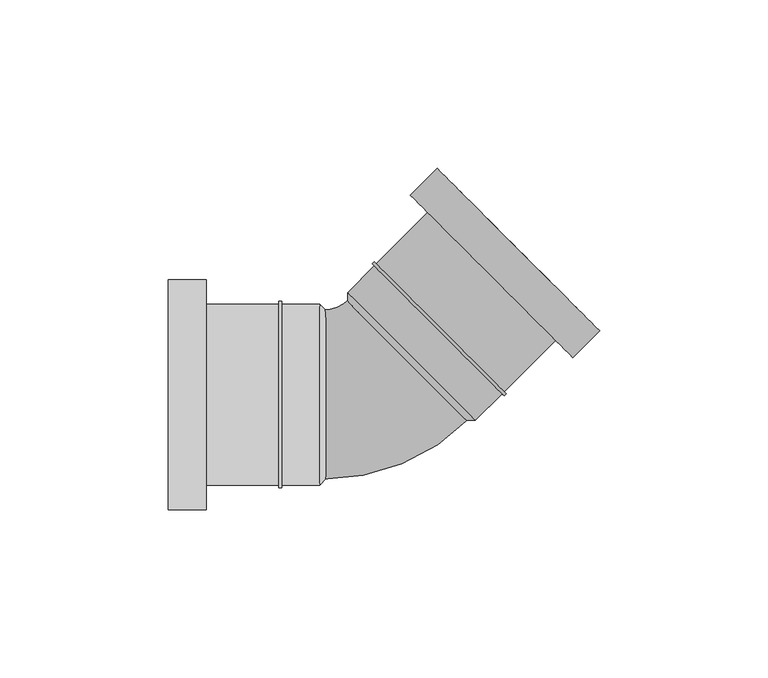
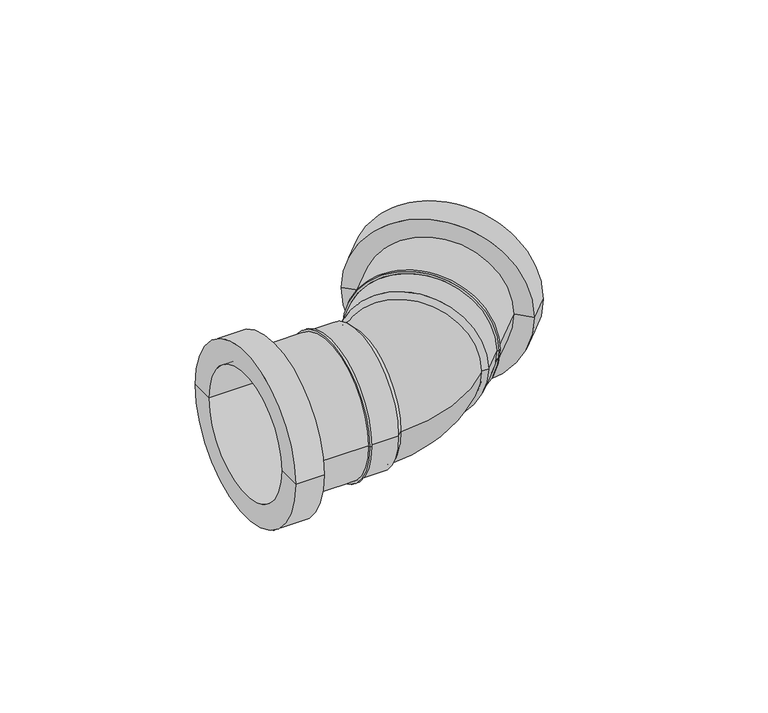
"""IFC4 building model written with IfcOpenShell, lengths in millimetres: pipe fitting geometry, UN_PIF_PP bend S-S_SH_PipeLife : Black, var. DN/OD (max. ø125, nested)."""

import ifcopenshell
import ifcopenshell.guid

model = None  # the IFC model being written
_history = None  # IfcOwnerHistory: only IFC2X3 demands one
_inside = {}  # id of a spatial element -> (the spatial element, [elements in it])
_under = {}  # id of a project, library or spatial element -> (it, [spatial elements below it])
_declared = {}  # id of a project -> (the project, [libraries it declares])
_typed = {}  # id of a type object -> (the type object, [elements of that type])
_made_of = {}  # id of a material, layer set ... -> (it, [elements and type objects made of it])


def new_model(schema):
    """Start an empty IFC model of exactly this schema.

    Asked for "IFC4X3", IfcOpenShell would pick the latest addendum, in which some entities
    have other attributes; the version numbers below select the first issue.
    IFC2X3 requires an IfcOwnerHistory on every rooted entity: one is made here for all.
    """
    global model, _history
    if schema == "IFC4X3":
        model = ifcopenshell.file(schema_version=(4, 3, 0, 0))
    else:
        model = ifcopenshell.file(schema=schema)
    _inside.clear()
    _under.clear()
    _declared.clear()
    _typed.clear()
    _made_of.clear()
    _history = None
    if model.schema == "IFC2X3":
        org = make("IfcOrganization", Name="unknown")
        user = make(
            "IfcPersonAndOrganization",
            ThePerson=make("IfcPerson", FamilyName="unknown"),
            TheOrganization=org,
        )
        app = make(
            "IfcApplication",
            ApplicationDeveloper=org,
            Version="unknown",
            ApplicationFullName="unknown",
            ApplicationIdentifier="unknown",
        )
        _history = make(
            "IfcOwnerHistory",
            OwningUser=user,
            OwningApplication=app,
            ChangeAction="ADDED",
            CreationDate=0,
        )
    return model


def make(cls, **values):
    """One entity of the class cls with the attributes given. An attribute that is None is left unset."""
    return model.create_entity(
        cls, **{name: value for name, value in values.items() if value is not None}
    )


def rooted(cls, **values):
    """An entity with a GlobalId (a new one), such as an element, a storey or a relation."""
    return make(cls, GlobalId=ifcopenshell.guid.new(), OwnerHistory=_history, **values)


def si_unit(unit_type, name, prefix=None):
    """IfcSIUnit, for example si_unit("LENGTHUNIT", "METRE", prefix="MILLI")."""
    return make("IfcSIUnit", UnitType=unit_type, Prefix=prefix, Name=name)


def assignment(units):
    """IfcUnitAssignment: the units of a project."""
    return None if units is None else make("IfcUnitAssignment", Units=units)


def point(xyz):
    """IfcCartesianPoint."""
    return None if xyz is None else make("IfcCartesianPoint", Coordinates=xyz)


def direction(xyz):
    """IfcDirection."""
    return None if xyz is None else make("IfcDirection", DirectionRatios=xyz)


def frame(location, z_axis=None, x_axis=None):
    """IfcAxis2Placement3D, a coordinate frame: its origin and axes. An axis left out is left unset."""
    return make(
        "IfcAxis2Placement3D",
        Location=point(location),
        Axis=direction(z_axis),
        RefDirection=direction(x_axis),
    )


def origin():
    """The frame at (0, 0, 0) with its axes left unset."""
    return frame((0.0, 0.0, 0.0))


def place(relative_to, where):
    """IfcLocalPlacement: puts the frame where relative to a parent placement (None: the world)."""
    return make(
        "IfcLocalPlacement", PlacementRelTo=relative_to, RelativePlacement=where
    )


def context(
    kind, dimensions, precision=None, world=None, true_north=None, identifier=None
):
    """IfcGeometricRepresentationContext, for example the 3D "Model" context."""
    return make(
        "IfcGeometricRepresentationContext",
        ContextIdentifier=identifier,
        ContextType=kind,
        CoordinateSpaceDimension=dimensions,
        Precision=precision,
        WorldCoordinateSystem=world,
        TrueNorth=true_north,
    )


def project(units=None, contexts=None):
    """IfcProject with its units and contexts."""
    return rooted(
        "IfcProject",
        Name="project",
        RepresentationContexts=contexts,
        UnitsInContext=assignment(units),
    )


def spatial(cls, under=None, at=None, **own):
    """A site, building, storey or space (cls), placed at a placement, below another one or the project."""
    s = rooted(cls, ObjectPlacement=at, **own)
    if under is not None:
        _under.setdefault(under.id(), (under, []))[1].append(s)
    return s


def polyline(points):
    """IfcPolyline through the points."""
    return make("IfcPolyline", Points=[point(p) for p in points])


def circle_curve(where, radius):
    """IfcCircle in the frame where."""
    return make("IfcCircle", Position=where, Radius=radius)


def ellipse_curve(where, semi_axis1, semi_axis2):
    """IfcEllipse in the frame where."""
    return make(
        "IfcEllipse", Position=where, SemiAxis1=semi_axis1, SemiAxis2=semi_axis2
    )


def trimmed(basis, trim1, trim2, sense, master):
    """IfcTrimmedCurve: the piece of a basis curve between two trims."""
    return make(
        "IfcTrimmedCurve",
        BasisCurve=basis,
        Trim1=trim1,
        Trim2=trim2,
        SenseAgreement=sense,
        MasterRepresentation=master,
    )


def shape(context_of_items, identifier, shape_type, items):
    """IfcShapeRepresentation: the items that make up one representation, for example the "Body"."""
    return make(
        "IfcShapeRepresentation",
        ContextOfItems=context_of_items,
        RepresentationIdentifier=identifier,
        RepresentationType=shape_type,
        Items=items,
    )


def source(mapping_origin, context_of_items, identifier, shape_type, items):
    """IfcRepresentationMap: a shape defined once, which mapped items show again and again."""
    return make(
        "IfcRepresentationMap",
        MappingOrigin=mapping_origin,
        MappedRepresentation=shape(context_of_items, identifier, shape_type, items),
    )


def transform(
    local_origin,
    x_axis=None,
    y_axis=None,
    z_axis=None,
    scale=None,
    scale2=None,
    scale3=None,
    uniform=True,
):
    """IfcCartesianTransformationOperator3D, or its non-uniform kind. x_axis, y_axis, z_axis: its Axis1, 2, 3."""
    if uniform:
        return make(
            "IfcCartesianTransformationOperator3D",
            Axis1=direction(x_axis),
            Axis2=direction(y_axis),
            LocalOrigin=point(local_origin),
            Scale=scale,
            Axis3=direction(z_axis),
        )
    return make(
        "IfcCartesianTransformationOperator3DnonUniform",
        Axis1=direction(x_axis),
        Axis2=direction(y_axis),
        LocalOrigin=point(local_origin),
        Scale=scale,
        Axis3=direction(z_axis),
        Scale2=scale2,
        Scale3=scale3,
    )


def mapped(mapping_source, mapping_target):
    """IfcMappedItem: shows the shape of a source again, moved by a transform."""
    return make(
        "IfcMappedItem", MappingSource=mapping_source, MappingTarget=mapping_target
    )


def made_of(thing, what):
    """Note that an element or type object is made of a material, layer set ...; save() writes the relation."""
    if what is not None:
        _made_of.setdefault(what.id(), (what, []))[1].append(thing)
    return thing


def element(
    cls,
    number,
    at=None,
    inside=None,
    cuts=None,
    type_object=None,
    material=None,
    context=None,
    identifier="Body",
    shape_type=None,
    held_by="IfcProductDefinitionShape",
    body=None,
    shapes=None,
    **own,
):
    """One element of the class cls, such as IfcWall. Its Tag is "e" and its number.

    at: its placement. inside: the storey or other place that contains it. cuts: it is an
    opening in that element (IfcRelVoidsElement). A single representation is given by context,
    identifier, shape_type and body (its items); several are given by shapes. held_by: the class
    of the entity that holds the representations. save() writes the other relations.
    """
    e = rooted(cls, Tag="e%d" % number, ObjectPlacement=at, **own)
    if body is not None:
        shapes = [shape(context, identifier, shape_type, body)]
    if shapes is not None:
        e.Representation = make(held_by, Representations=shapes)
    if inside is not None:
        _inside.setdefault(inside.id(), (inside, []))[1].append(e)
    if cuts is not None:
        rooted(
            "IfcRelVoidsElement", RelatingBuildingElement=cuts, RelatedOpeningElement=e
        )
    if type_object is not None:
        _typed.setdefault(type_object.id(), (type_object, []))[1].append(e)
    return made_of(e, material)


def aggregate(whole, parts):
    """IfcRelAggregates: a whole, such as a stair, and the parts it consists of."""
    return rooted("IfcRelAggregates", RelatingObject=whole, RelatedObjects=parts)


def save(model, path):
    """Write the relations noted so far, then the file.

    IfcRelAggregates (storeys below a building ...), IfcRelContainedInSpatialStructure (elements
    in a storey), IfcRelDefinesByType, IfcRelAssociatesMaterial and IfcRelDeclares: one each for
    every whole, place, type object, material and project.
    """
    for whole, parts in _under.values():
        aggregate(whole, parts)
    for where, things in _inside.values():
        rooted(
            "IfcRelContainedInSpatialStructure",
            RelatedElements=things,
            RelatingStructure=where,
        )
    for kind, things in _typed.values():
        rooted("IfcRelDefinesByType", RelatedObjects=things, RelatingType=kind)
    for what, things in _made_of.values():
        rooted("IfcRelAssociatesMaterial", RelatedObjects=things, RelatingMaterial=what)
    for by, libraries in _declared.values():
        rooted("IfcRelDeclares", RelatingContext=by, RelatedDefinitions=libraries)
    model.write(path)


def plane_surface(at):
    """IfcPlane: the flat surface through the origin of the frame at, square to its z axis."""
    return make("IfcPlane", Position=at)


def cylinder_surface(at, radius):
    """IfcCylindricalSurface: all points at the distance radius from the z axis of the frame at."""
    return make("IfcCylindricalSurface", Position=at, Radius=radius)


def revolved_surface(curve, axis_point, axis_direction):
    """IfcSurfaceOfRevolution: the curve turned about the line through axis_point along axis_direction."""
    return make(
        "IfcSurfaceOfRevolution",
        SweptCurve=make("IfcArbitraryOpenProfileDef", ProfileType="CURVE", Curve=curve),
        AxisPosition=make("IfcAxis1Placement", Location=point(axis_point), Axis=direction(axis_direction)),
    )


def advanced_brep(points, edges, surfaces, faces):
    """IfcAdvancedBrep: a solid bounded by faces that lie on surfaces and meet in shared edges.

    An edge is (start, end): straight between two places in points (the first is 0);
    or (start, end, curve); or (start, end, curve, False) where it runs against its curve.
    A face is (place in surfaces, loops), or (place, loops, False) where it looks against
    its surface's normal. A loop lists edges by number (the first is 1), with a minus sign
    where the edge is run from its end to its start. The first loop is the outer one.
    """
    corners = [point(p) for p in points]
    vertices = [make("IfcVertexPoint", VertexGeometry=c) for c in corners]
    made = []
    for start, end, *more in edges:
        made.append(
            make(
                "IfcEdgeCurve",
                EdgeStart=vertices[start],
                EdgeEnd=vertices[end],
                EdgeGeometry=more[0] if more else make("IfcPolyline", Points=[corners[start], corners[end]]),
                SameSense=more[1] if len(more) > 1 else True,
            )
        )
    hull = []
    for where, loops, *sense in faces:
        bounds = []
        for j, loop in enumerate(loops):
            ring = [make("IfcOrientedEdge", EdgeElement=made[abs(k) - 1], Orientation=k > 0) for k in loop]
            bounds.append(
                make(
                    "IfcFaceOuterBound" if j == 0 else "IfcFaceBound",
                    Bound=make("IfcEdgeLoop", EdgeList=ring),
                    Orientation=True,
                )
            )
        hull.append(make("IfcAdvancedFace", Bounds=bounds, FaceSurface=surfaces[where], SameSense=sense[0] if sense else True))
    return make("IfcAdvancedBrep", Outer=make("IfcClosedShell", CfsFaces=hull))


def pipe_fitting_aa3b7aee(model_context):
    return source(origin(), model_context, "Body", "AdvancedBrep", [
        advanced_brep(
        [(-14.15, 25.0, 0.0), (-14.15, -25.0, 0.0), (-16.0, -26.85, 0.0), (-16.0, 26.85, 0.0), (-60.9, 34.15, 0.0), (-60.9, -34.15, 0.0), (-60.9, -25.0, 0.0), (-60.9, 25.0, 0.0), (-49.675, 34.15, 0.0), (-49.675, -34.15, 0.0), (-49.675, 26.85, 0.0), (-49.675, -26.85, 0.0), (-28.075, 26.85, 0.0), (-28.075, -26.85, 0.0), (-28.075, 27.7, 0.0), (-28.075, -27.7, 0.0), (-27.225, 27.7, 0.0), (-27.225, -27.7, 0.0), (-27.225, 26.85, 0.0), (-27.225, -26.85, 0.0)],
        [
            (0, 1, circle_curve(frame((-14.15, 0.0, 0.0), z_axis=(-1.0, 0.0, 0.0), x_axis=(0.0, -1.0000000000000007, 0.0)), 25.0)),
            (1, 2),
            (2, 3, circle_curve(frame((-16.0, 0.0, 0.0), z_axis=(1.0, 0.0, 0.0), x_axis=(0.0, -1.0000000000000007, 0.0)), 26.85)),
            (3, 0),
            (1, 0, circle_curve(frame((-14.15, 0.0, 0.0), z_axis=(-1.0, 0.0, 0.0), x_axis=(0.0, -1.0000000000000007, 0.0)), 25.0)),
            (3, 2, circle_curve(frame((-16.0, 0.0, 0.0), z_axis=(1.0, 0.0, 0.0), x_axis=(0.0, -1.0000000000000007, 0.0)), 26.85)),
            (4, 5, circle_curve(frame((-60.9, 0.0, 0.0), z_axis=(-1.0, 0.0, 0.0), x_axis=(0.0, -1.0000000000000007, 0.0)), 34.15)),
            (5, 6),
            (6, 7, circle_curve(frame((-60.9, 0.0, 0.0), z_axis=(1.0, 0.0, 0.0), x_axis=(0.0, -1.0000000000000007, 0.0)), 25.0)),
            (7, 4),
            (5, 4, circle_curve(frame((-60.9, 0.0, 0.0), z_axis=(-1.0, 0.0, 0.0), x_axis=(0.0, -1.0000000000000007, 0.0)), 34.15)),
            (7, 6, circle_curve(frame((-60.9, 0.0, 0.0), z_axis=(1.0, 0.0, 0.0), x_axis=(0.0, -1.0000000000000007, 0.0)), 25.0)),
            (8, 9, circle_curve(frame((-49.675, 0.0, 0.0), z_axis=(-1.0, 0.0, 0.0), x_axis=(0.0, -1.0000000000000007, 0.0)), 34.15)),
            (9, 5),
            (4, 8),
            (9, 8, circle_curve(frame((-49.675, 0.0, 0.0), z_axis=(-1.0, 0.0, 0.0), x_axis=(0.0, -1.0000000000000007, 0.0)), 34.15)),
            (10, 11, circle_curve(frame((-49.675, 0.0, 0.0), z_axis=(-1.0, 0.0, 0.0), x_axis=(0.0, -1.0000000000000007, 0.0)), 26.85)),
            (11, 9),
            (8, 10),
            (11, 10, circle_curve(frame((-49.675, 0.0, 0.0), z_axis=(-1.0, 0.0, 0.0), x_axis=(0.0, -1.0000000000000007, 0.0)), 26.85)),
            (12, 13, circle_curve(frame((-28.075, 0.0, 0.0), z_axis=(-1.0, 0.0, 0.0), x_axis=(0.0, -1.0000000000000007, 0.0)), 26.85)),
            (13, 11),
            (10, 12),
            (13, 12, circle_curve(frame((-28.075, 0.0, 0.0), z_axis=(-1.0, 0.0, 0.0), x_axis=(0.0, -1.0000000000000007, 0.0)), 26.85)),
            (14, 15, circle_curve(frame((-28.075, 0.0, 0.0), z_axis=(-1.0, 0.0, 0.0), x_axis=(0.0, -1.0000000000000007, 0.0)), 27.7)),
            (15, 13),
            (12, 14),
            (15, 14, circle_curve(frame((-28.075, 0.0, 0.0), z_axis=(-1.0, 0.0, 0.0), x_axis=(0.0, -1.0000000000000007, 0.0)), 27.7)),
            (16, 17, circle_curve(frame((-27.225, 0.0, 0.0), z_axis=(-1.0, 0.0, 0.0), x_axis=(0.0, -1.0000000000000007, 0.0)), 27.7)),
            (17, 15),
            (14, 16),
            (17, 16, circle_curve(frame((-27.225, 0.0, 0.0), z_axis=(-1.0, 0.0, 0.0), x_axis=(0.0, -1.0000000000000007, 0.0)), 27.7)),
            (18, 19, circle_curve(frame((-27.225, 0.0, 0.0), z_axis=(-1.0, 0.0, 0.0), x_axis=(0.0, -1.0000000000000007, 0.0)), 26.85)),
            (19, 17),
            (16, 18),
            (19, 18, circle_curve(frame((-27.225, 0.0, 0.0), z_axis=(-1.0, 0.0, 0.0), x_axis=(0.0, -1.0000000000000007, 0.0)), 26.85)),
            (2, 19),
            (18, 3),
            (6, 1),
            (0, 7),
        ],
        [
            revolved_surface(polyline([(-16.0, -26.85, 0.0), (-14.15, -25.0, 0.0)]), (-60.9, 0.0, 0.0), (1.0000000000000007, 0.0, 0.0)),
            plane_surface(frame((-60.9, 0.0, 0.0), z_axis=(-1.0, 0.0, 0.0), x_axis=(0.0, -1.0, 0.0))),
            cylinder_surface(frame((-60.9, 0.0, 0.0), z_axis=(1.0000000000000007, 0.0, 0.0), x_axis=(0.0, -1.0000000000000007, 0.0)), 34.15),
            plane_surface(frame((-49.675, 0.0, 0.0), z_axis=(1.0, 0.0, 0.0), x_axis=(0.0, -1.0, 0.0))),
            cylinder_surface(frame((-60.9, 0.0, 0.0), z_axis=(1.0000000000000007, 0.0, 0.0), x_axis=(0.0, -1.0000000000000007, 0.0)), 26.85),
            plane_surface(frame((-28.075, 0.0, 0.0), z_axis=(-1.0, 0.0, 0.0), x_axis=(0.0, -1.0, 0.0))),
            cylinder_surface(frame((-60.9, 0.0, 0.0), z_axis=(1.0000000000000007, 0.0, 0.0), x_axis=(0.0, -1.0000000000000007, 0.0)), 27.7),
            plane_surface(frame((-27.225, 0.0, 0.0), z_axis=(1.0, 0.0, 0.0), x_axis=(0.0, -1.0, 0.0))),
            revolved_surface(polyline([(-14.149999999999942, -25.000000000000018, 0.0), (-60.9, -25.000000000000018, 0.0)]), (-60.9, 0.0, 0.0), (1.0000000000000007, 0.0, 0.0)),
        ],
        [
            (0, [[1, 2, 3, 4]]),
            (0, [[5, -4, 6, -2]]),
            (1, [[7, 8, 9, 10]]),
            (1, [[11, -10, 12, -8]]),
            (2, [[13, 14, -7, 15]]),
            (2, [[16, -15, -11, -14]]),
            (3, [[17, 18, -13, 19]]),
            (3, [[20, -19, -16, -18]]),
            (4, [[21, 22, -17, 23]]),
            (4, [[24, -23, -20, -22]]),
            (5, [[25, 26, -21, 27]]),
            (5, [[28, -27, -24, -26]]),
            (6, [[29, 30, -25, 31]]),
            (6, [[32, -31, -28, -30]]),
            (7, [[33, 34, -29, 35]]),
            (7, [[36, -35, -32, -34]]),
            (4, [[-3, 37, -33, 38]]),
            (4, [[-6, -38, -36, -37]]),
            (8, [[-9, 39, -1, 40]]),
            (8, [[-12, -40, -5, -39]]),
        ],
    ),
        advanced_brep(
        [(27.6832305, -7.6721086, 0.0), (-7.6721086, 27.6832305, 0.0), (-7.6721086, 30.2995256, 0.0), (30.2995256, -7.6721086, 0.0), (67.2104996, 18.9151064, 0.0), (18.9151064, 67.2104996, 0.0), (25.3851334, 60.7404725, 0.0), (60.7404725, 25.3851334, 0.0), (59.2732259, 10.9778328, 0.0), (10.9778328, 59.2732259, 0.0), (54.1113464, 16.1397123, 0.0), (16.1397123, 54.1113464, 0.0), (38.83784, 0.8662058, 0.0), (0.8662058, 38.83784, 0.0), (39.4388807, 0.265165, 0.0), (0.265165, 39.4388807, 0.0), (38.83784, -0.3358757, 0.0), (-0.3358757, 38.83784, 0.0), (38.2367992, 0.265165, 0.0), (0.265165, 38.2367992, 0.0)],
        [
            (0, 1, circle_curve(frame((10.005561, 10.005561, 0.0), z_axis=(0.7071067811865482, 0.707106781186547, 0.0), x_axis=(-0.7071067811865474, 0.7071067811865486, 0.0)), 25.0)),
            (1, 2),
            (2, 3, circle_curve(frame((11.3137085, 11.3137085, 0.0), z_axis=(-0.7071067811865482, -0.707106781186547, 0.0), x_axis=(-0.7071067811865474, 0.7071067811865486, 0.0)), 26.85)),
            (3, 0),
            (1, 0, circle_curve(frame((10.005561, 10.005561, 0.0), z_axis=(0.7071067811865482, 0.707106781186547, 0.0), x_axis=(-0.7071067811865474, 0.7071067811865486, 0.0)), 25.0)),
            (3, 2, circle_curve(frame((11.3137085, 11.3137085, 0.0), z_axis=(-0.7071067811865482, -0.707106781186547, 0.0), x_axis=(-0.7071067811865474, 0.7071067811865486, 0.0)), 26.85)),
            (4, 5, circle_curve(frame((43.062803, 43.062803, 0.0), z_axis=(0.7071067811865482, 0.707106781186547, 0.0), x_axis=(-0.7071067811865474, 0.7071067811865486, 0.0)), 34.15)),
            (5, 6),
            (6, 7, circle_curve(frame((43.062803, 43.062803, 0.0), z_axis=(-0.7071067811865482, -0.707106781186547, 0.0), x_axis=(-0.7071067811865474, 0.7071067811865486, 0.0)), 25.0)),
            (7, 4),
            (5, 4, circle_curve(frame((43.062803, 43.062803, 0.0), z_axis=(0.7071067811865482, 0.707106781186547, 0.0), x_axis=(-0.7071067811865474, 0.7071067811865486, 0.0)), 34.15)),
            (7, 6, circle_curve(frame((43.062803, 43.062803, 0.0), z_axis=(-0.7071067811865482, -0.707106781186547, 0.0), x_axis=(-0.7071067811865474, 0.7071067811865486, 0.0)), 25.0)),
            (8, 9, circle_curve(frame((35.1255294, 35.1255294, 0.0), z_axis=(0.7071067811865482, 0.707106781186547, 0.0), x_axis=(-0.7071067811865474, 0.7071067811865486, 0.0)), 34.15)),
            (9, 5),
            (4, 8),
            (9, 8, circle_curve(frame((35.1255294, 35.1255294, 0.0), z_axis=(0.7071067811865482, 0.707106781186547, 0.0), x_axis=(-0.7071067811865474, 0.7071067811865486, 0.0)), 34.15)),
            (10, 11, circle_curve(frame((35.1255294, 35.1255294, 0.0), z_axis=(0.7071067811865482, 0.707106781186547, 0.0), x_axis=(-0.7071067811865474, 0.7071067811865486, 0.0)), 26.85)),
            (11, 9),
            (8, 10),
            (11, 10, circle_curve(frame((35.1255294, 35.1255294, 0.0), z_axis=(0.7071067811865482, 0.707106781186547, 0.0), x_axis=(-0.7071067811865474, 0.7071067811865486, 0.0)), 26.85)),
            (12, 13, circle_curve(frame((19.8520229, 19.8520229, 0.0), z_axis=(0.7071067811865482, 0.707106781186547, 0.0), x_axis=(-0.7071067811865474, 0.7071067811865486, 0.0)), 26.85)),
            (13, 11),
            (10, 12),
            (13, 12, circle_curve(frame((19.8520229, 19.8520229, 0.0), z_axis=(0.7071067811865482, 0.707106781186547, 0.0), x_axis=(-0.7071067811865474, 0.7071067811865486, 0.0)), 26.85)),
            (14, 15, circle_curve(frame((19.8520229, 19.8520229, 0.0), z_axis=(0.7071067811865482, 0.707106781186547, 0.0), x_axis=(-0.7071067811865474, 0.7071067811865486, 0.0)), 27.7)),
            (15, 13),
            (12, 14),
            (15, 14, circle_curve(frame((19.8520229, 19.8520229, 0.0), z_axis=(0.7071067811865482, 0.707106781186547, 0.0), x_axis=(-0.7071067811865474, 0.7071067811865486, 0.0)), 27.7)),
            (16, 17, circle_curve(frame((19.2509821, 19.2509821, 0.0), z_axis=(0.7071067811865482, 0.707106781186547, 0.0), x_axis=(-0.7071067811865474, 0.7071067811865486, 0.0)), 27.7)),
            (17, 15),
            (14, 16),
            (17, 16, circle_curve(frame((19.2509821, 19.2509821, 0.0), z_axis=(0.7071067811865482, 0.707106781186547, 0.0), x_axis=(-0.7071067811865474, 0.7071067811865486, 0.0)), 27.7)),
            (18, 19, circle_curve(frame((19.2509821, 19.2509821, 0.0), z_axis=(0.7071067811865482, 0.707106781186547, 0.0), x_axis=(-0.7071067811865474, 0.7071067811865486, 0.0)), 26.85)),
            (19, 17),
            (16, 18),
            (19, 18, circle_curve(frame((19.2509821, 19.2509821, 0.0), z_axis=(0.7071067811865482, 0.707106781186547, 0.0), x_axis=(-0.7071067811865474, 0.7071067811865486, 0.0)), 26.85)),
            (2, 19),
            (18, 3),
            (6, 1),
            (0, 7),
        ],
        [
            revolved_surface(polyline([(-7.6721086, 30.2995256, 0.0), (-7.6721086, 27.6832305, 0.0)]), (43.062803, 43.062803, 0.0), (-0.7071067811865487, -0.7071067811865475, 0.0)),
            plane_surface(frame((43.062803, 43.062803, 0.0), z_axis=(0.7071067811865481, 0.7071067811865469, 0.0), x_axis=(-0.7071067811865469, 0.7071067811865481, 0.0))),
            cylinder_surface(frame((43.062803, 43.062803, 0.0), z_axis=(-0.7071067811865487, -0.7071067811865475, 0.0), x_axis=(-0.7071067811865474, 0.7071067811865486, 0.0)), 34.15),
            plane_surface(frame((35.1255294, 35.1255294, 0.0), z_axis=(-0.7071067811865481, -0.7071067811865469, 0.0), x_axis=(-0.7071067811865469, 0.7071067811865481, 0.0))),
            cylinder_surface(frame((43.062803, 43.062803, 0.0), z_axis=(-0.7071067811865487, -0.7071067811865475, 0.0), x_axis=(-0.7071067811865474, 0.7071067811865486, 0.0)), 26.85),
            plane_surface(frame((19.8520229, 19.8520229, 0.0), z_axis=(0.7071067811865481, 0.7071067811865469, 0.0), x_axis=(-0.7071067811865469, 0.7071067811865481, 0.0))),
            cylinder_surface(frame((43.062803, 43.062803, 0.0), z_axis=(-0.7071067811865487, -0.7071067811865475, 0.0), x_axis=(-0.7071067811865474, 0.7071067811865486, 0.0)), 27.7),
            plane_surface(frame((19.2509821, 19.2509821, 0.0), z_axis=(-0.7071067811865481, -0.7071067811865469, 0.0), x_axis=(-0.7071067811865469, 0.7071067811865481, 0.0))),
            revolved_surface(polyline([(-7.672108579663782, 27.683230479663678, 0.0), (25.385133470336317, 60.74047252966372, 0.0)]), (43.062803, 43.062803, 0.0), (-0.7071067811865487, -0.7071067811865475, 0.0)),
        ],
        [
            (0, [[1, 2, 3, 4]]),
            (0, [[5, -4, 6, -2]]),
            (1, [[7, 8, 9, 10]]),
            (1, [[11, -10, 12, -8]]),
            (2, [[13, 14, -7, 15]]),
            (2, [[16, -15, -11, -14]]),
            (3, [[17, 18, -13, 19]]),
            (3, [[20, -19, -16, -18]]),
            (4, [[21, 22, -17, 23]]),
            (4, [[24, -23, -20, -22]]),
            (5, [[25, 26, -21, 27]]),
            (5, [[28, -27, -24, -26]]),
            (6, [[29, 30, -25, 31]]),
            (6, [[32, -31, -28, -30]]),
            (7, [[33, 34, -29, 35]]),
            (7, [[36, -35, -32, -34]]),
            (4, [[-3, 37, -33, 38]]),
            (4, [[-6, -38, -36, -37]]),
            (8, [[-9, 39, -1, 40]]),
            (8, [[-12, -40, -5, -39]]),
        ],
    ),
        advanced_brep(
        [(-16.0, -25.15, 0.0), (-16.0, 25.15, 0.0), (-15.0, -25.15, 0.0), (-15.0, 25.15, 0.0), (-7.1771338, 28.3903373, 0.0), (28.3903373, -7.1771338, 0.0), (29.097444, -6.470027, 0.0), (-6.470027, 29.097444, 0.0)],
        [
            (0, 1, circle_curve(frame((-16.0, 0.0, 0.0), z_axis=(-1.0, 0.0, 0.0), x_axis=(0.0, 1.0, 0.0)), 25.15)),
            (1, 0, circle_curve(frame((-16.0, 0.0, 0.0), z_axis=(-1.0, 0.0, 0.0), x_axis=(0.0, 1.0, 0.0)), 25.15)),
            (0, 2),
            (2, 3, circle_curve(frame((-15.0, 0.0, 0.0), z_axis=(-1.0, 0.0, 0.0), x_axis=(0.0, 1.0, 0.0)), 25.15)),
            (3, 1),
            (3, 2, circle_curve(frame((-15.0, 0.0, 0.0), z_axis=(-1.0, 0.0, 0.0), x_axis=(0.0, 1.0, 0.0)), 25.15)),
            (4, 3, circle_curve(frame((-15.0, 36.2132034, 0.0), z_axis=(0.0, 0.0, -1.0), x_axis=(0.0, -1.0, 0.0)), 11.0632034)),
            (2, 5, circle_curve(frame((-15.0, 36.2132034, 0.0), z_axis=(0.0, 0.0, 1.0), x_axis=(0.0, -1.0, 0.0)), 61.3632034)),
            (5, 4, circle_curve(frame((10.6066017, 10.6066017, 0.0), z_axis=(-0.7071067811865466, -0.7071067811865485, 0.0), x_axis=(-0.7071067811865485, 0.7071067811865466, 0.0)), 25.15)),
            (4, 5, circle_curve(frame((10.6066017, 10.6066017, 0.0), z_axis=(-0.7071067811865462, -0.7071067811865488, 0.0), x_axis=(-0.7071067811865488, 0.7071067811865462, 0.0)), 25.15)),
            (6, 7, circle_curve(frame((11.3137085, 11.3137085, 0.0), z_axis=(0.7071067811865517, 0.7071067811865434, 0.0), x_axis=(-0.7071067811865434, 0.7071067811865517, 0.0)), 25.15)),
            (7, 6, circle_curve(frame((11.3137085, 11.3137085, 0.0), z_axis=(0.7071067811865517, 0.7071067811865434, 0.0), x_axis=(-0.7071067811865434, 0.7071067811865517, 0.0)), 25.15)),
            (5, 6),
            (7, 4),
        ],
        [
            plane_surface(frame((-16.0, 0.0, 0.0), z_axis=(-1.0, 0.0, 0.0), x_axis=(0.0, 0.0, 1.0))),
            cylinder_surface(frame((-16.0, 0.0, 0.0), z_axis=(-1.0, 0.0, 0.0), x_axis=(0.0, 1.0, 0.0)), 25.15),
            revolved_surface(trimmed(ellipse_curve(frame((-15.0, 0.0, 0.0), z_axis=(-1.0, 0.0, 0.0), x_axis=(0.0, 1.0, 0.0)), 25.15, 25.15), [point((-15.0, -25.15, 0.0))], [point((-15.0, 25.15, 0.0))], True, "CARTESIAN"), (-15.0, 36.2132034, 0.0), (0.0, 0.0, 1.0)),
            revolved_surface(trimmed(ellipse_curve(frame((-15.0, 0.0, 0.0), z_axis=(-1.0, 0.0, 0.0), x_axis=(0.0, 1.0, 0.0)), 25.15, 25.15), [point((-15.0, 25.15, 0.0))], [point((-15.0, -25.15, 0.0))], True, "CARTESIAN"), (-15.0, 36.2132034, 0.0), (0.0, 0.0, 1.0)),
            plane_surface(frame((11.3137085, 11.3137085, 0.0), z_axis=(0.7071067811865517, 0.7071067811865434, 0.0), x_axis=(0.0, 0.0, 1.0))),
            cylinder_surface(frame((10.6066017, 10.6066017, 0.0), z_axis=(-0.7071067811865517, -0.7071067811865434, 0.0), x_axis=(-0.7071067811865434, 0.7071067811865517, 0.0)), 25.15),
        ],
        [
            (0, [[1, 2]]),
            (1, [[-1, 3, 4, 5]]),
            (1, [[-2, -5, 6, -3]]),
            (2, [[7, -4, 8, 9]]),
            (3, [[-8, -6, -7, 10]]),
            (4, [[11, 12]]),
            (5, [[-9, 13, -12, 14]]),
            (5, [[-10, -14, -11, -13]]),
        ],
    ),
    ])


if __name__ == "__main__":
    model = new_model("IFC4")
    model_context = context("Model", 3, world=origin())
    ifc_project = project(units=[si_unit("LENGTHUNIT", "METRE", prefix="MILLI")], contexts=[model_context])
    site = spatial("IfcSite", under=ifc_project)
    building = spatial("IfcBuilding", under=site)
    placement = place(None, origin())
    pipe_fitting_shape = pipe_fitting_aa3b7aee(model_context)
    element("IfcPipeFitting", 1, ObjectType="UN_PIF_PP bend S-S_SH_PipeLife : Black, var. DN/OD (max. ø125, nested)", at=placement, inside=building, context=model_context, shape_type="MappedRepresentation", body=[
        mapped(pipe_fitting_shape, transform((0.0, 0.0, 0.0), x_axis=(1.0, 0.0, 0.0), y_axis=(0.0, 1.0, 0.0), z_axis=(0.0, 0.0, 1.0))),
    ])
    save(model, "model.ifc")
